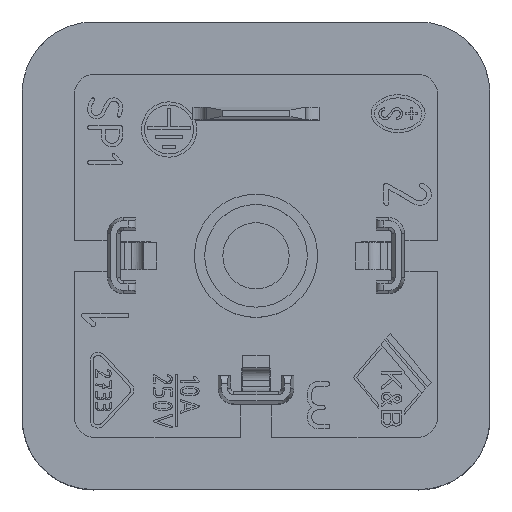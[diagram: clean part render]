
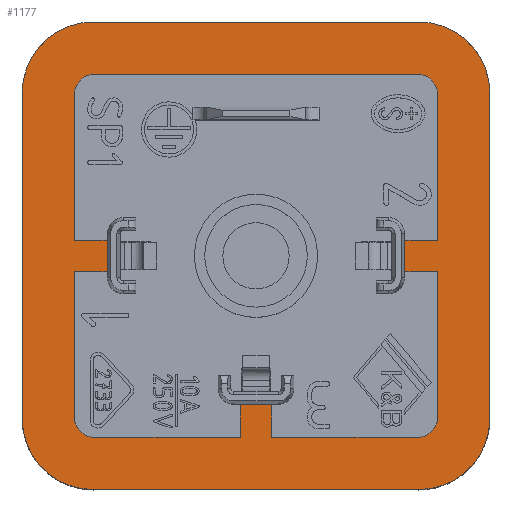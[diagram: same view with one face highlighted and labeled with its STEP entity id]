
A CAD part, top view. The second image highlights one B-rep face of the part: STEP entity #1177.
In plain terms, the highlighted planar face has unit normal (0, 0, 1).
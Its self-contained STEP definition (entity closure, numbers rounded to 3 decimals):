
#1177=ADVANCED_FACE('',(#3443,#3444),#1960,.T.);
#1960=PLANE('',#14601);
#2454=CIRCLE('',#14593,1.3);
#2455=CIRCLE('',#14594,1.3);
#2456=CIRCLE('',#14595,1.3);
#2457=CIRCLE('',#14596,1.3);
#2458=CIRCLE('',#14597,4.5);
#2459=CIRCLE('',#14598,4.5);
#2460=CIRCLE('',#14599,4.5);
#2461=CIRCLE('',#14600,4.5);
#3443=FACE_BOUND('',#3616,.T.);
#3444=FACE_BOUND('',#3617,.T.);
#3616=EDGE_LOOP('',(#5007,#5008,#5009,#5010,#5011,#5012,#5013,#5014,#5015,
#5016,#5017,#5018,#5019,#5020,#5021,#5022,#5023,#5024,#5025,#5026));
#3617=EDGE_LOOP('',(#5027,#5028,#5029,#5030,#5031,#5032,#5033,#5034));
#5007=ORIENTED_EDGE('',*,*,#10389,.F.);
#5008=ORIENTED_EDGE('',*,*,#10440,.T.);
#5009=ORIENTED_EDGE('',*,*,#10257,.T.);
#5010=ORIENTED_EDGE('',*,*,#10441,.T.);
#5011=ORIENTED_EDGE('',*,*,#10442,.T.);
#5012=ORIENTED_EDGE('',*,*,#10443,.T.);
#5013=ORIENTED_EDGE('',*,*,#10262,.F.);
#5014=ORIENTED_EDGE('',*,*,#10444,.F.);
#5015=ORIENTED_EDGE('',*,*,#10395,.T.);
#5016=ORIENTED_EDGE('',*,*,#10445,.T.);
#5017=ORIENTED_EDGE('',*,*,#10446,.F.);
#5018=ORIENTED_EDGE('',*,*,#10447,.T.);
#5019=ORIENTED_EDGE('',*,*,#10265,.F.);
#5020=ORIENTED_EDGE('',*,*,#10448,.F.);
#5021=ORIENTED_EDGE('',*,*,#10392,.F.);
#5022=ORIENTED_EDGE('',*,*,#10449,.T.);
#5023=ORIENTED_EDGE('',*,*,#10450,.F.);
#5024=ORIENTED_EDGE('',*,*,#10451,.T.);
#5025=ORIENTED_EDGE('',*,*,#10268,.F.);
#5026=ORIENTED_EDGE('',*,*,#10452,.F.);
#5027=ORIENTED_EDGE('',*,*,#10439,.F.);
#5028=ORIENTED_EDGE('',*,*,#10453,.T.);
#5029=ORIENTED_EDGE('',*,*,#10417,.F.);
#5030=ORIENTED_EDGE('',*,*,#10454,.T.);
#5031=ORIENTED_EDGE('',*,*,#10455,.F.);
#5032=ORIENTED_EDGE('',*,*,#10456,.T.);
#5033=ORIENTED_EDGE('',*,*,#10421,.F.);
#5034=ORIENTED_EDGE('',*,*,#10457,.T.);
#8902=VERTEX_POINT('',#20116);
#8903=VERTEX_POINT('',#20118);
#8906=VERTEX_POINT('',#20127);
#8907=VERTEX_POINT('',#20129);
#8908=VERTEX_POINT('',#20133);
#8909=VERTEX_POINT('',#20135);
#8910=VERTEX_POINT('',#20139);
#8911=VERTEX_POINT('',#20141);
#9031=VERTEX_POINT('',#20637);
#9032=VERTEX_POINT('',#20638);
#9033=VERTEX_POINT('',#20643);
#9034=VERTEX_POINT('',#20644);
#9035=VERTEX_POINT('',#20649);
#9036=VERTEX_POINT('',#20650);
#9051=VERTEX_POINT('',#20703);
#9054=VERTEX_POINT('',#20708);
#9055=VERTEX_POINT('',#20712);
#9058=VERTEX_POINT('',#20717);
#9071=VERTEX_POINT('',#20820);
#9074=VERTEX_POINT('',#20825);
#9075=VERTEX_POINT('',#20830);
#9076=VERTEX_POINT('',#20832);
#9077=VERTEX_POINT('',#20836);
#9078=VERTEX_POINT('',#20838);
#9079=VERTEX_POINT('',#20842);
#9080=VERTEX_POINT('',#20844);
#9081=VERTEX_POINT('',#20849);
#9082=VERTEX_POINT('',#20851);
#10257=EDGE_CURVE('',#8903,#8902,#12079,.T.);
#10262=EDGE_CURVE('',#8906,#8907,#12082,.T.);
#10265=EDGE_CURVE('',#8908,#8909,#12085,.T.);
#10268=EDGE_CURVE('',#8910,#8911,#12088,.T.);
#10389=EDGE_CURVE('',#9031,#9032,#12141,.T.);
#10392=EDGE_CURVE('',#9033,#9034,#12144,.T.);
#10395=EDGE_CURVE('',#9035,#9036,#12147,.T.);
#10417=EDGE_CURVE('',#9054,#9051,#12159,.T.);
#10421=EDGE_CURVE('',#9058,#9055,#12162,.T.);
#10439=EDGE_CURVE('',#9074,#9071,#12170,.T.);
#10440=EDGE_CURVE('',#9031,#8903,#2454,.T.);
#10441=EDGE_CURVE('',#8902,#9075,#2455,.T.);
#10442=EDGE_CURVE('',#9075,#9076,#12171,.T.);
#10443=EDGE_CURVE('',#9076,#8907,#12172,.T.);
#10444=EDGE_CURVE('',#9035,#8906,#12173,.T.);
#10445=EDGE_CURVE('',#9036,#9077,#2456,.T.);
#10446=EDGE_CURVE('',#9078,#9077,#12174,.T.);
#10447=EDGE_CURVE('',#9078,#8909,#12175,.T.);
#10448=EDGE_CURVE('',#9034,#8908,#12176,.T.);
#10449=EDGE_CURVE('',#9033,#9079,#2457,.T.);
#10450=EDGE_CURVE('',#9080,#9079,#12177,.T.);
#10451=EDGE_CURVE('',#9080,#8911,#12178,.T.);
#10452=EDGE_CURVE('',#9032,#8910,#12179,.T.);
#10453=EDGE_CURVE('',#9074,#9051,#2458,.T.);
#10454=EDGE_CURVE('',#9054,#9081,#2459,.T.);
#10455=EDGE_CURVE('',#9082,#9081,#12180,.T.);
#10456=EDGE_CURVE('',#9082,#9055,#2460,.T.);
#10457=EDGE_CURVE('',#9058,#9071,#2461,.T.);
#12079=LINE('',#20117,#13284);
#12082=LINE('',#20128,#13287);
#12085=LINE('',#20134,#13290);
#12088=LINE('',#20140,#13293);
#12141=LINE('',#20636,#13346);
#12144=LINE('',#20642,#13349);
#12147=LINE('',#20648,#13352);
#12159=LINE('',#20709,#13364);
#12162=LINE('',#20718,#13367);
#12170=LINE('',#20826,#13375);
#12171=LINE('',#20831,#13376);
#12172=LINE('',#20833,#13377);
#12173=LINE('',#20834,#13378);
#12174=LINE('',#20837,#13379);
#12175=LINE('',#20839,#13380);
#12176=LINE('',#20840,#13381);
#12177=LINE('',#20843,#13382);
#12178=LINE('',#20845,#13383);
#12179=LINE('',#20846,#13384);
#12180=LINE('',#20850,#13385);
#13284=VECTOR('',#15610,1.);
#13287=VECTOR('',#15621,1.);
#13290=VECTOR('',#15626,1.);
#13293=VECTOR('',#15631,1.);
#13346=VECTOR('',#15714,1.);
#13349=VECTOR('',#15719,1.);
#13352=VECTOR('',#15724,1.);
#13364=VECTOR('',#15762,1.);
#13367=VECTOR('',#15769,1.);
#13375=VECTOR('',#15785,1.);
#13376=VECTOR('',#15792,1.);
#13377=VECTOR('',#15793,1.);
#13378=VECTOR('',#15794,1.);
#13379=VECTOR('',#15797,1.);
#13380=VECTOR('',#15798,1.);
#13381=VECTOR('',#15799,1.);
#13382=VECTOR('',#15802,1.);
#13383=VECTOR('',#15803,1.);
#13384=VECTOR('',#15804,1.);
#13385=VECTOR('',#15809,1.);
#14593=AXIS2_PLACEMENT_3D('',#20828,#15788,#15789);
#14594=AXIS2_PLACEMENT_3D('',#20829,#15790,#15791);
#14595=AXIS2_PLACEMENT_3D('',#20835,#15795,#15796);
#14596=AXIS2_PLACEMENT_3D('',#20841,#15800,#15801);
#14597=AXIS2_PLACEMENT_3D('',#20847,#15805,#15806);
#14598=AXIS2_PLACEMENT_3D('',#20848,#15807,#15808);
#14599=AXIS2_PLACEMENT_3D('',#20852,#15810,#15811);
#14600=AXIS2_PLACEMENT_3D('',#20853,#15812,#15813);
#14601=AXIS2_PLACEMENT_3D('',#20854,#15814,#15815);
#15610=DIRECTION('',(1.,0.,0.));
#15621=DIRECTION('',(0.,1.,0.));
#15626=DIRECTION('',(1.,0.,0.));
#15631=DIRECTION('',(0.,-1.,0.));
#15714=DIRECTION('',(0.,-1.,0.));
#15719=DIRECTION('',(1.,0.,0.));
#15724=DIRECTION('',(0.,-1.,0.));
#15762=DIRECTION('',(-1.,0.,0.));
#15769=DIRECTION('',(1.,0.,0.));
#15785=DIRECTION('',(0.,1.,0.));
#15788=DIRECTION('',(0.,0.,-1.));
#15789=DIRECTION('',(1.,0.,0.));
#15790=DIRECTION('',(0.,0.,-1.));
#15791=DIRECTION('',(1.,0.,0.));
#15792=DIRECTION('',(0.,-1.,0.));
#15793=DIRECTION('',(-1.,0.,0.));
#15794=DIRECTION('',(-1.,0.,0.));
#15795=DIRECTION('',(0.,0.,-1.));
#15796=DIRECTION('',(1.,0.,0.));
#15797=DIRECTION('',(1.,0.,0.));
#15798=DIRECTION('',(0.,1.,0.));
#15799=DIRECTION('',(0.,1.,0.));
#15800=DIRECTION('',(0.,0.,-1.));
#15801=DIRECTION('',(1.,0.,0.));
#15802=DIRECTION('',(0.,-1.,0.));
#15803=DIRECTION('',(1.,0.,0.));
#15804=DIRECTION('',(1.,0.,0.));
#15805=DIRECTION('',(0.,0.,1.));
#15806=DIRECTION('',(1.,0.,0.));
#15807=DIRECTION('',(0.,0.,1.));
#15808=DIRECTION('',(1.,0.,0.));
#15809=DIRECTION('',(0.,-1.,0.));
#15810=DIRECTION('',(0.,0.,1.));
#15811=DIRECTION('',(1.,0.,0.));
#15812=DIRECTION('',(0.,0.,1.));
#15813=DIRECTION('',(1.,0.,0.));
#15814=DIRECTION('',(0.,0.,1.));
#15815=DIRECTION('',(1.,0.,0.));
#20116=CARTESIAN_POINT('',(25.,26.3,20.34));
#20117=CARTESIAN_POINT('',(3.3,26.3,20.34));
#20118=CARTESIAN_POINT('',(4.6,26.3,20.34));
#20127=CARTESIAN_POINT('',(24.225,13.8,20.34));
#20128=CARTESIAN_POINT('',(24.225,13.8,20.34));
#20129=CARTESIAN_POINT('',(24.225,15.8,20.34));
#20133=CARTESIAN_POINT('',(13.8,5.375,20.34));
#20134=CARTESIAN_POINT('',(13.8,5.375,20.34));
#20135=CARTESIAN_POINT('',(15.8,5.375,20.34));
#20139=CARTESIAN_POINT('',(5.375,15.8,20.34));
#20140=CARTESIAN_POINT('',(5.375,15.8,20.34));
#20141=CARTESIAN_POINT('',(5.375,13.8,20.34));
#20636=CARTESIAN_POINT('',(3.3,26.3,20.34));
#20637=CARTESIAN_POINT('',(3.3,25.,20.34));
#20638=CARTESIAN_POINT('',(3.3,15.8,20.34));
#20642=CARTESIAN_POINT('',(3.3,3.3,20.34));
#20643=CARTESIAN_POINT('',(4.6,3.3,20.34));
#20644=CARTESIAN_POINT('',(13.8,3.3,20.34));
#20648=CARTESIAN_POINT('',(26.3,26.3,20.34));
#20649=CARTESIAN_POINT('',(26.3,13.8,20.34));
#20650=CARTESIAN_POINT('',(26.3,4.6,20.34));
#20703=CARTESIAN_POINT('',(4.5,0.,20.34));
#20708=CARTESIAN_POINT('',(25.1,0.,20.34));
#20709=CARTESIAN_POINT('',(14.8,0.,20.34));
#20712=CARTESIAN_POINT('',(25.1,29.6,20.34));
#20717=CARTESIAN_POINT('',(4.5,29.6,20.34));
#20718=CARTESIAN_POINT('',(14.8,29.6,20.34));
#20820=CARTESIAN_POINT('',(0.,25.1,20.34));
#20825=CARTESIAN_POINT('',(0.,4.5,20.34));
#20826=CARTESIAN_POINT('',(0.,14.8,20.34));
#20828=CARTESIAN_POINT('',(4.6,25.,20.34));
#20829=CARTESIAN_POINT('',(25.,25.,20.34));
#20830=CARTESIAN_POINT('',(26.3,25.,20.34));
#20831=CARTESIAN_POINT('',(26.3,26.3,20.34));
#20832=CARTESIAN_POINT('',(26.3,15.8,20.34));
#20833=CARTESIAN_POINT('',(26.3,15.8,20.34));
#20834=CARTESIAN_POINT('',(26.3,13.8,20.34));
#20835=CARTESIAN_POINT('',(25.,4.6,20.34));
#20836=CARTESIAN_POINT('',(25.,3.3,20.34));
#20837=CARTESIAN_POINT('',(3.3,3.3,20.34));
#20838=CARTESIAN_POINT('',(15.8,3.3,20.34));
#20839=CARTESIAN_POINT('',(15.8,3.3,20.34));
#20840=CARTESIAN_POINT('',(13.8,3.3,20.34));
#20841=CARTESIAN_POINT('',(4.6,4.6,20.34));
#20842=CARTESIAN_POINT('',(3.3,4.6,20.34));
#20843=CARTESIAN_POINT('',(3.3,26.3,20.34));
#20844=CARTESIAN_POINT('',(3.3,13.8,20.34));
#20845=CARTESIAN_POINT('',(3.3,13.8,20.34));
#20846=CARTESIAN_POINT('',(3.3,15.8,20.34));
#20847=CARTESIAN_POINT('',(4.5,4.5,20.34));
#20848=CARTESIAN_POINT('',(25.1,4.5,20.34));
#20849=CARTESIAN_POINT('',(29.6,4.5,20.34));
#20850=CARTESIAN_POINT('',(29.6,14.8,20.34));
#20851=CARTESIAN_POINT('',(29.6,25.1,20.34));
#20852=CARTESIAN_POINT('',(25.1,25.1,20.34));
#20853=CARTESIAN_POINT('',(4.5,25.1,20.34));
#20854=CARTESIAN_POINT('',(14.8,14.8,20.34));
